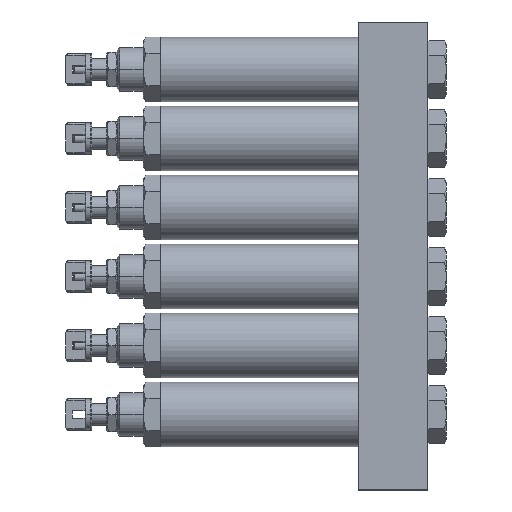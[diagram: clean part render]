
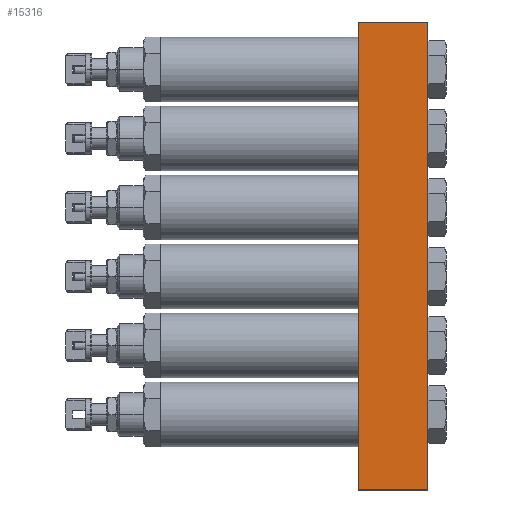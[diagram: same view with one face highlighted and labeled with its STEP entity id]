
A CAD part, left-side view. The second image highlights one B-rep face of the part: STEP entity #15316.
In plain terms, the highlighted planar face has unit normal (-1, 0, 0).
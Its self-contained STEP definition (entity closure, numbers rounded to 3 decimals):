
#709 = VECTOR ( 'NONE', #1591, 1000. ) ;
#1030 = VERTEX_POINT ( 'NONE', #8915 ) ;
#1368 = CARTESIAN_POINT ( 'NONE',  ( -39.141, -83.285, 22. ) ) ;
#1580 = CARTESIAN_POINT ( 'NONE',  ( -39.141, -83.285, -195. ) ) ;
#1591 = DIRECTION ( 'NONE',  ( 0., -1., 0. ) ) ;
#1614 = DIRECTION ( 'NONE',  ( 0., 0., 1. ) ) ;
#1990 = LINE ( 'NONE', #16237, #8861 ) ;
#2306 = VECTOR ( 'NONE', #10754, 1000. ) ;
#2810 = PLANE ( 'NONE',  #5705 ) ;
#2883 = ORIENTED_EDGE ( 'NONE', *, *, #7718, .F. ) ;
#3470 = EDGE_CURVE ( 'NONE', #11263, #15860, #1990, .T. ) ;
#4681 = DIRECTION ( 'NONE',  ( 1., 0., 0. ) ) ;
#5687 = EDGE_CURVE ( 'NONE', #11263, #1030, #18999, .T. ) ;
#5705 = AXIS2_PLACEMENT_3D ( 'NONE', #17754, #4681, #19531 ) ;
#6261 = LINE ( 'NONE', #1368, #9985 ) ;
#7718 = EDGE_CURVE ( 'NONE', #1030, #8509, #15087, .T. ) ;
#8509 = VERTEX_POINT ( 'NONE', #13209 ) ;
#8861 = VECTOR ( 'NONE', #16395, 1000. ) ;
#8915 = CARTESIAN_POINT ( 'NONE',  ( -39.141, -51.285, 22. ) ) ;
#9561 = ORIENTED_EDGE ( 'NONE', *, *, #3470, .T. ) ;
#9646 = ORIENTED_EDGE ( 'NONE', *, *, #5687, .F. ) ;
#9985 = VECTOR ( 'NONE', #1614, 1000. ) ;
#10754 = DIRECTION ( 'NONE',  ( 0., 0., 1. ) ) ;
#11263 = VERTEX_POINT ( 'NONE', #12727 ) ;
#11708 = EDGE_LOOP ( 'NONE', ( #18928, #2883, #9646, #9561 ) ) ;
#12691 = CARTESIAN_POINT ( 'NONE',  ( -39.141, -51.285, 22. ) ) ;
#12727 = CARTESIAN_POINT ( 'NONE',  ( -39.141, -51.285, -195. ) ) ;
#12742 = FACE_OUTER_BOUND ( 'NONE', #11708, .T. ) ;
#13209 = CARTESIAN_POINT ( 'NONE',  ( -39.141, -83.285, 22. ) ) ;
#15087 = LINE ( 'NONE', #19995, #709 ) ;
#15316 = ADVANCED_FACE ( 'NONE', ( #12742 ), #2810, .F. ) ;
#15860 = VERTEX_POINT ( 'NONE', #1580 ) ;
#16237 = CARTESIAN_POINT ( 'NONE',  ( -39.141, -51.285, -195. ) ) ;
#16395 = DIRECTION ( 'NONE',  ( 0., -1., 0. ) ) ;
#17754 = CARTESIAN_POINT ( 'NONE',  ( -39.141, -51.285, 22. ) ) ;
#18928 = ORIENTED_EDGE ( 'NONE', *, *, #20773, .T. ) ;
#18999 = LINE ( 'NONE', #12691, #2306 ) ;
#19531 = DIRECTION ( 'NONE',  ( 0., 0., -1. ) ) ;
#19995 = CARTESIAN_POINT ( 'NONE',  ( -39.141, -51.285, 22. ) ) ;
#20773 = EDGE_CURVE ( 'NONE', #15860, #8509, #6261, .T. ) ;
